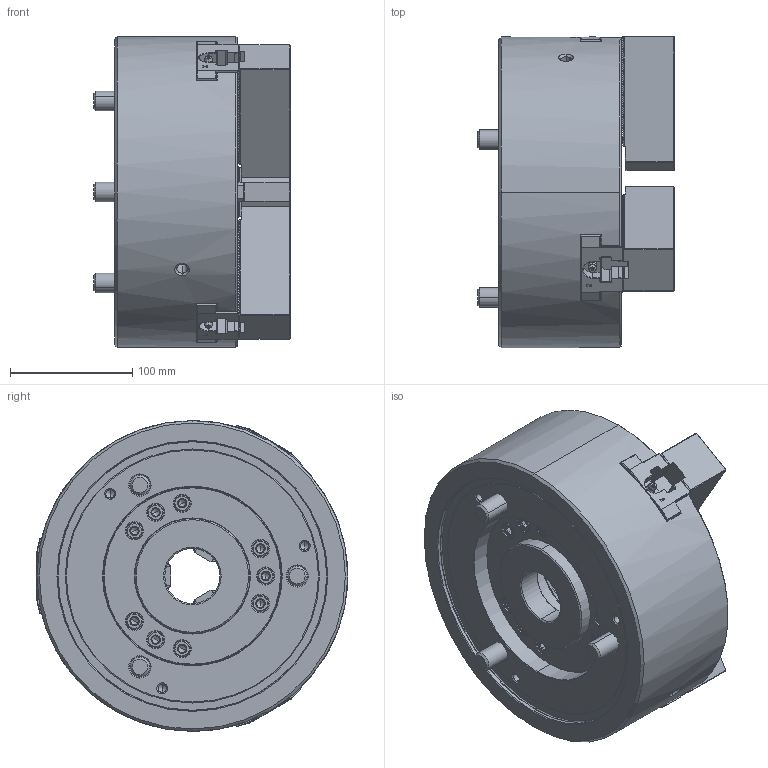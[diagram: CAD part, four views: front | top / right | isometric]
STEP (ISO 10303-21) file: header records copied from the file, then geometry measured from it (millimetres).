
FILE_DESCRIPTION (( 'STEP AP203' ), '1' );
FILE_NAME ('B-210M_HUL.STEP', '2025-09-03T08:57:38', ( '' ), ( '' ), 'SwSTEP 2.0', 'SolidWorks 2022', '' );
FILE_SCHEMA (( 'CONFIG_CONTROL_DESIGN' ));
Length unit declared in the file: millimetre
Products named in the file (9): Copy of DEV-B-210M-ソフトジョー^DEV-B-210M-クミタテ_デフォルト; Copy of DEV-B-210M-ドローナット^DEV-B-210M-クミタテ_ねじ切りなし; Copy of DEV-B-210M-Bアナツキボタン M6x10^DEV-B-210M-クミタテ; Copy of DEV-B-210M-Bアナツキ M12x30^DEV-B-210M-クミタテ; Copy of DEV-B-210M-Bアナツキ M16x100^DEV-B-210M-クミタテ; Copy of DEV-B-210M-Tナット^DEV-B-210M-クミタテ; Part9^DEV-B-210M-クミタテ; Copy of DEV-B-210M-カバー^DEV-B-210M-クミタテ; B-210M_HUL
Assembly tree (21 placements, depth 2):
  B-210M_HUL
    Copy of DEV-B-210M-Bアナツキ M16x100^DEV-B-210M-クミタテ  x3
    Copy of DEV-B-210M-Bアナツキ M12x30^DEV-B-210M-クミタテ  x6
    Copy of DEV-B-210M-Bアナツキボタン M6x10^DEV-B-210M-クミタテ  x3
    Copy of DEV-B-210M-ドローナット^DEV-B-210M-クミタテ_ねじ切りなし
    Copy of DEV-B-210M-カバー^DEV-B-210M-クミタテ
    Copy of DEV-B-210M-ソフトジョー^DEV-B-210M-クミタテ_デフォルト  x3
    Copy of DEV-B-210M-Tナット^DEV-B-210M-クミタテ  x3
    Part9^DEV-B-210M-クミタテ
Bounding box: 160.2 x 254.58 x 254 mm (x, y, z)
Volume: 4785741.4 mm3; surface area: 460418.5 mm2
Topology: 21 solids, 27 shells, 4509 faces, 12655 edges, 8251 vertices
Faces by surface type: plane 2842, cylinder 1099, cone 380, bspline 119, torus 62, sphere 7
Entity records: 99468 total; most frequent: CARTESIAN_POINT 25223, ORIENTED_EDGE 16234, DIRECTION 13717, EDGE_CURVE 8117, VECTOR 6031, LINE 6031, VERTEX_POINT 5299, AXIS2_PLACEMENT_3D 3843
